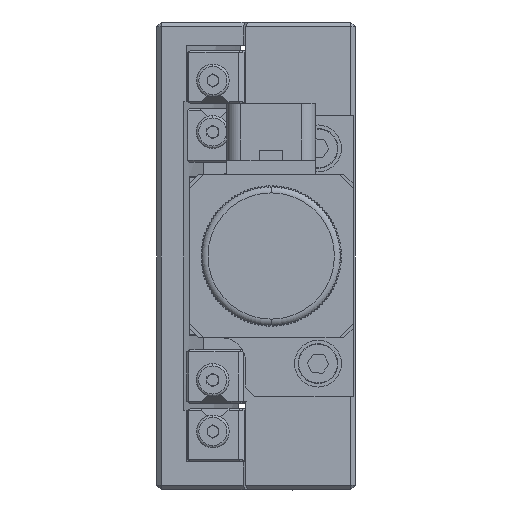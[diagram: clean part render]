
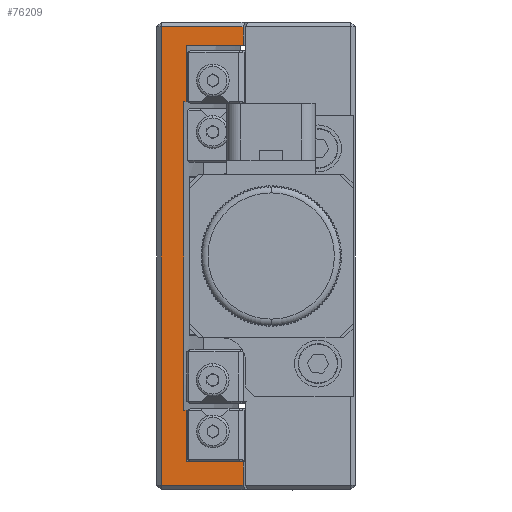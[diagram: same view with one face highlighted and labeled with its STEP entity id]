
A CAD part, left-side view. The second image highlights one B-rep face of the part: STEP entity #76209.
In plain terms, the highlighted planar face has unit normal (-1, 0, 0).
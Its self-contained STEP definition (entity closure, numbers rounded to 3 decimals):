
#1103 = LINE ( 'NONE', #78539, #40019 ) ;
#2414 = CARTESIAN_POINT ( 'NONE',  ( -50., -113.472, -50. ) ) ;
#2419 = DIRECTION ( 'NONE',  ( 0., 0., -1. ) ) ;
#3912 = VERTEX_POINT ( 'NONE', #80937 ) ;
#4050 = DIRECTION ( 'NONE',  ( 0., -1., 0. ) ) ;
#4384 = ORIENTED_EDGE ( 'NONE', *, *, #10317, .F. ) ;
#5781 = DIRECTION ( 'NONE',  ( 0., -1., 0. ) ) ;
#5851 = VECTOR ( 'NONE', #8745, 1000. ) ;
#7804 = EDGE_CURVE ( 'NONE', #52257, #82764, #74317, .T. ) ;
#8028 = ORIENTED_EDGE ( 'NONE', *, *, #30351, .T. ) ;
#8585 = ORIENTED_EDGE ( 'NONE', *, *, #53485, .T. ) ;
#8745 = DIRECTION ( 'NONE',  ( 0., -1., 0. ) ) ;
#10317 = EDGE_CURVE ( 'NONE', #75065, #71724, #54436, .T. ) ;
#10574 = VECTOR ( 'NONE', #4050, 1000. ) ;
#10648 = FACE_OUTER_BOUND ( 'NONE', #54435, .T. ) ;
#11652 = EDGE_CURVE ( 'NONE', #81887, #73590, #16141, .T. ) ;
#14713 = VECTOR ( 'NONE', #49224, 1000. ) ;
#15048 = VECTOR ( 'NONE', #54218, 1000. ) ;
#15146 = CARTESIAN_POINT ( 'NONE',  ( -50., -100.778, 33. ) ) ;
#16141 = LINE ( 'NONE', #54627, #15048 ) ;
#16170 = PLANE ( 'NONE',  #21660 ) ;
#16544 = ORIENTED_EDGE ( 'NONE', *, *, #80692, .F. ) ;
#17052 = CARTESIAN_POINT ( 'NONE',  ( -50., -100.778, -33. ) ) ;
#17480 = CARTESIAN_POINT ( 'NONE',  ( -50., -113.472, 45. ) ) ;
#17848 = ORIENTED_EDGE ( 'NONE', *, *, #62959, .T. ) ;
#19779 = CARTESIAN_POINT ( 'NONE',  ( -50., -100.778, -33. ) ) ;
#21479 = CARTESIAN_POINT ( 'NONE',  ( -50., -113.472, -50. ) ) ;
#21637 = CARTESIAN_POINT ( 'NONE',  ( -50., -101.336, 33. ) ) ;
#21660 = AXIS2_PLACEMENT_3D ( 'NONE', #42394, #62288, #49542 ) ;
#21723 = VECTOR ( 'NONE', #2419, 1000. ) ;
#22410 = VECTOR ( 'NONE', #65565, 1000. ) ;
#23121 = CARTESIAN_POINT ( 'NONE',  ( -50., -134., -33. ) ) ;
#23151 = DIRECTION ( 'NONE',  ( 0., 0., -1. ) ) ;
#23472 = CARTESIAN_POINT ( 'NONE',  ( -50., -134., -44. ) ) ;
#23755 = CARTESIAN_POINT ( 'NONE',  ( -50., -96., -49. ) ) ;
#28462 = VERTEX_POINT ( 'NONE', #17480 ) ;
#30351 = EDGE_CURVE ( 'NONE', #75065, #3912, #81421, .T. ) ;
#32857 = LINE ( 'NONE', #44718, #66520 ) ;
#33293 = EDGE_CURVE ( 'NONE', #67073, #68048, #1103, .T. ) ;
#33418 = ORIENTED_EDGE ( 'NONE', *, *, #43057, .F. ) ;
#34245 = CARTESIAN_POINT ( 'NONE',  ( -50., -113.472, -44. ) ) ;
#34554 = VERTEX_POINT ( 'NONE', #15146 ) ;
#35670 = LINE ( 'NONE', #17052, #51521 ) ;
#39724 = CARTESIAN_POINT ( 'NONE',  ( -50., -134., 49. ) ) ;
#39996 = DIRECTION ( 'NONE',  ( 0., 0., -1. ) ) ;
#40019 = VECTOR ( 'NONE', #39996, 1000. ) ;
#42308 = VERTEX_POINT ( 'NONE', #59764 ) ;
#42394 = CARTESIAN_POINT ( 'NONE',  ( -50., -134., 50. ) ) ;
#43057 = EDGE_CURVE ( 'NONE', #82764, #3912, #82770, .T. ) ;
#44718 = CARTESIAN_POINT ( 'NONE',  ( -50., -134., 33. ) ) ;
#45223 = CARTESIAN_POINT ( 'NONE',  ( -50., -101.336, 45. ) ) ;
#46215 = ORIENTED_EDGE ( 'NONE', *, *, #50439, .T. ) ;
#48426 = VECTOR ( 'NONE', #80645, 1000. ) ;
#49224 = DIRECTION ( 'NONE',  ( 0., 1., 0. ) ) ;
#49542 = DIRECTION ( 'NONE',  ( 0., 0., -1. ) ) ;
#50385 = ORIENTED_EDGE ( 'NONE', *, *, #7804, .F. ) ;
#50439 = EDGE_CURVE ( 'NONE', #34554, #68048, #32857, .T. ) ;
#50762 = CARTESIAN_POINT ( 'NONE',  ( -50., -113.472, -49. ) ) ;
#50872 = ORIENTED_EDGE ( 'NONE', *, *, #69114, .T. ) ;
#51521 = VECTOR ( 'NONE', #81361, 1000. ) ;
#52257 = VERTEX_POINT ( 'NONE', #19779 ) ;
#53485 = EDGE_CURVE ( 'NONE', #67073, #28462, #68800, .T. ) ;
#53596 = LINE ( 'NONE', #79838, #5851 ) ;
#54218 = DIRECTION ( 'NONE',  ( 0., 0., -1. ) ) ;
#54435 = EDGE_LOOP ( 'NONE', ( #67164, #17848, #4384, #8028, #33418, #50385, #16544, #46215, #81492, #8585, #72142, #50872 ) ) ;
#54436 = LINE ( 'NONE', #21479, #21723 ) ;
#54627 = CARTESIAN_POINT ( 'NONE',  ( -50., -96., 50. ) ) ;
#59764 = CARTESIAN_POINT ( 'NONE',  ( -50., -113.472, 49. ) ) ;
#62288 = DIRECTION ( 'NONE',  ( 1., 0., 0. ) ) ;
#62894 = DIRECTION ( 'NONE',  ( 0., 0., -1. ) ) ;
#62959 = EDGE_CURVE ( 'NONE', #73590, #71724, #53596, .T. ) ;
#65565 = DIRECTION ( 'NONE',  ( 0., 1., 0. ) ) ;
#66520 = VECTOR ( 'NONE', #5781, 1000. ) ;
#67073 = VERTEX_POINT ( 'NONE', #45223 ) ;
#67164 = ORIENTED_EDGE ( 'NONE', *, *, #11652, .T. ) ;
#68048 = VERTEX_POINT ( 'NONE', #21637 ) ;
#68800 = LINE ( 'NONE', #74737, #10574 ) ;
#69114 = EDGE_CURVE ( 'NONE', #42308, #81887, #77840, .T. ) ;
#71724 = VERTEX_POINT ( 'NONE', #50762 ) ;
#72142 = ORIENTED_EDGE ( 'NONE', *, *, #78642, .F. ) ;
#73590 = VERTEX_POINT ( 'NONE', #23755 ) ;
#74317 = LINE ( 'NONE', #23121, #48426 ) ;
#74348 = LINE ( 'NONE', #2414, #75901 ) ;
#74737 = CARTESIAN_POINT ( 'NONE',  ( -50., -113.472, 45. ) ) ;
#75065 = VERTEX_POINT ( 'NONE', #34245 ) ;
#75901 = VECTOR ( 'NONE', #23151, 1000. ) ;
#75981 = VECTOR ( 'NONE', #62894, 1000. ) ;
#76209 = ADVANCED_FACE ( 'NONE', ( #10648 ), #16170, .F. ) ;
#76852 = CARTESIAN_POINT ( 'NONE',  ( -50., -101.336, -380.758 ) ) ;
#77840 = LINE ( 'NONE', #39724, #22410 ) ;
#78539 = CARTESIAN_POINT ( 'NONE',  ( -50., -101.336, -380.758 ) ) ;
#78642 = EDGE_CURVE ( 'NONE', #42308, #28462, #74348, .T. ) ;
#79838 = CARTESIAN_POINT ( 'NONE',  ( -50., -113.472, -49. ) ) ;
#80645 = DIRECTION ( 'NONE',  ( 0., -1., 0. ) ) ;
#80692 = EDGE_CURVE ( 'NONE', #34554, #52257, #35670, .T. ) ;
#80937 = CARTESIAN_POINT ( 'NONE',  ( -50., -101.336, -44. ) ) ;
#81361 = DIRECTION ( 'NONE',  ( 0., 0., -1. ) ) ;
#81421 = LINE ( 'NONE', #23472, #14713 ) ;
#81492 = ORIENTED_EDGE ( 'NONE', *, *, #33293, .F. ) ;
#81887 = VERTEX_POINT ( 'NONE', #82328 ) ;
#82328 = CARTESIAN_POINT ( 'NONE',  ( -50., -96., 49. ) ) ;
#82764 = VERTEX_POINT ( 'NONE', #83191 ) ;
#82770 = LINE ( 'NONE', #76852, #75981 ) ;
#83191 = CARTESIAN_POINT ( 'NONE',  ( -50., -101.336, -33. ) ) ;
